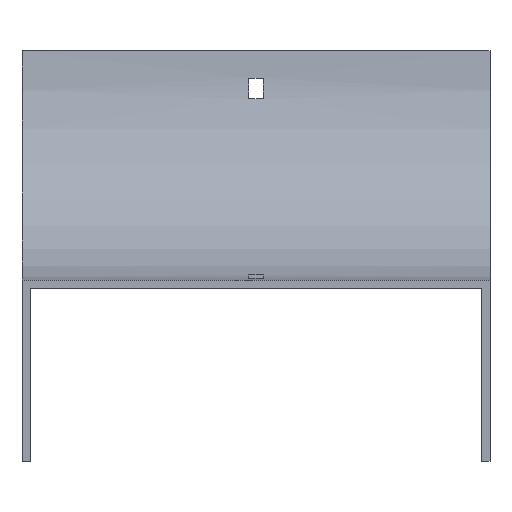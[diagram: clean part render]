
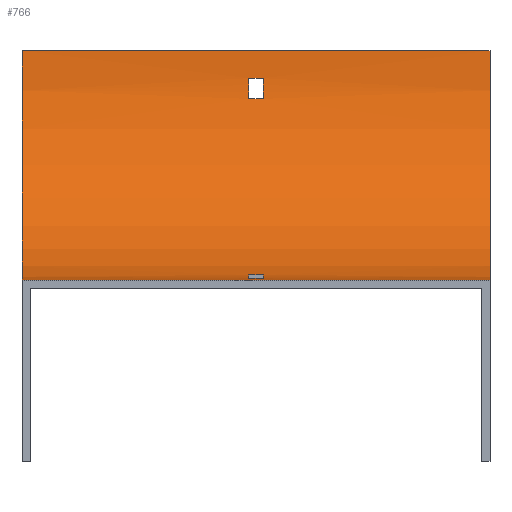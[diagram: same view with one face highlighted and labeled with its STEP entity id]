
A CAD part, front view. The second image highlights one B-rep face of the part: STEP entity #766.
In plain terms, the highlighted cylindrical face has radius 100 mm (diameter 200 mm), a partial arc.
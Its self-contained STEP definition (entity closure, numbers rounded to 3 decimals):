
#5 = VECTOR ( 'NONE', #104, 1000. ) ;
#7 = EDGE_CURVE ( 'NONE', #1125, #1558, #1030, .T. ) ;
#8 = DIRECTION ( 'NONE',  ( 0., 0., -1. ) ) ;
#70 = ORIENTED_EDGE ( 'NONE', *, *, #133, .F. ) ;
#72 = CARTESIAN_POINT ( 'NONE',  ( 3.25, -2.23, -21. ) ) ;
#104 = DIRECTION ( 'NONE',  ( -1., 0., 0. ) ) ;
#105 = ORIENTED_EDGE ( 'NONE', *, *, #432, .T. ) ;
#115 = ORIENTED_EDGE ( 'NONE', *, *, #1183, .F. ) ;
#116 = ORIENTED_EDGE ( 'NONE', *, *, #530, .F. ) ;
#119 = VERTEX_POINT ( 'NONE', #789 ) ;
#126 = LINE ( 'NONE', #1693, #155 ) ;
#133 = EDGE_CURVE ( 'NONE', #446, #1214, #1242, .T. ) ;
#137 = EDGE_LOOP ( 'NONE', ( #1365, #116, #1236, #1182 ) ) ;
#155 = VECTOR ( 'NONE', #1560, 1000. ) ;
#185 = ORIENTED_EDGE ( 'NONE', *, *, #1277, .F. ) ;
#198 = DIRECTION ( 'NONE',  ( 0., 0., 1. ) ) ;
#212 = CARTESIAN_POINT ( 'NONE',  ( -102., -100., -100. ) ) ;
#220 = CARTESIAN_POINT ( 'NONE',  ( -3.25, -0.723, -12. ) ) ;
#244 = DIRECTION ( 'NONE',  ( 0., 0., 1. ) ) ;
#266 = VERTEX_POINT ( 'NONE', #220 ) ;
#268 = LINE ( 'NONE', #1158, #712 ) ;
#272 = DIRECTION ( 'NONE',  ( -1., 0., 0. ) ) ;
#324 = VERTEX_POINT ( 'NONE', #212 ) ;
#327 = AXIS2_PLACEMENT_3D ( 'NONE', #982, #1227, #198 ) ;
#330 = AXIS2_PLACEMENT_3D ( 'NONE', #1349, #1496, #1631 ) ;
#343 = DIRECTION ( 'NONE',  ( -1., 0., 0. ) ) ;
#364 = VERTEX_POINT ( 'NONE', #978 ) ;
#371 = CARTESIAN_POINT ( 'NONE',  ( -3.25, -100., 0. ) ) ;
#387 = CARTESIAN_POINT ( 'NONE',  ( 102., 0., 0. ) ) ;
#390 = CARTESIAN_POINT ( 'NONE',  ( 102., -79., -97.77 ) ) ;
#393 = CARTESIAN_POINT ( 'NONE',  ( 102., -2.23, -21. ) ) ;
#417 = CARTESIAN_POINT ( 'NONE',  ( 102., -100., 0. ) ) ;
#432 = EDGE_CURVE ( 'NONE', #1396, #1417, #535, .T. ) ;
#446 = VERTEX_POINT ( 'NONE', #654 ) ;
#497 = AXIS2_PLACEMENT_3D ( 'NONE', #1642, #1234, #1509 ) ;
#512 = AXIS2_PLACEMENT_3D ( 'NONE', #674, #1490, #1460 ) ;
#514 = ORIENTED_EDGE ( 'NONE', *, *, #810, .T. ) ;
#524 = DIRECTION ( 'NONE',  ( 1., 0., 0. ) ) ;
#530 = EDGE_CURVE ( 'NONE', #1558, #324, #126, .T. ) ;
#535 = LINE ( 'NONE', #393, #1073 ) ;
#562 = VERTEX_POINT ( 'NONE', #1072 ) ;
#631 = CIRCLE ( 'NONE', #497, 100. ) ;
#654 = CARTESIAN_POINT ( 'NONE',  ( 3.25, -88., -99.277 ) ) ;
#657 = AXIS2_PLACEMENT_3D ( 'NONE', #371, #1530, #244 ) ;
#664 = ORIENTED_EDGE ( 'NONE', *, *, #1206, .T. ) ;
#674 = CARTESIAN_POINT ( 'NONE',  ( 3.25, -100., 0. ) ) ;
#688 = EDGE_CURVE ( 'NONE', #1125, #119, #1393, .T. ) ;
#707 = FACE_BOUND ( 'NONE', #1672, .T. ) ;
#712 = VECTOR ( 'NONE', #524, 1000. ) ;
#732 = ORIENTED_EDGE ( 'NONE', *, *, #833, .F. ) ;
#735 = CARTESIAN_POINT ( 'NONE',  ( 102., 0., 0. ) ) ;
#766 = ADVANCED_FACE ( 'NONE', ( #1482, #851, #707 ), #834, .F. ) ;
#782 = DIRECTION ( 'NONE',  ( 0., 0., 1. ) ) ;
#789 = CARTESIAN_POINT ( 'NONE',  ( -102., 0., 0. ) ) ;
#795 = VECTOR ( 'NONE', #1045, 1000. ) ;
#806 = VERTEX_POINT ( 'NONE', #1280 ) ;
#810 = EDGE_CURVE ( 'NONE', #1417, #266, #1116, .T. ) ;
#833 = EDGE_CURVE ( 'NONE', #1214, #562, #1272, .T. ) ;
#834 = CYLINDRICAL_SURFACE ( 'NONE', #327, 100. ) ;
#851 = FACE_BOUND ( 'NONE', #1350, .T. ) ;
#898 = CARTESIAN_POINT ( 'NONE',  ( 102., -0.723, -12. ) ) ;
#907 = LINE ( 'NONE', #898, #795 ) ;
#978 = CARTESIAN_POINT ( 'NONE',  ( 3.25, -0.723, -12. ) ) ;
#982 = CARTESIAN_POINT ( 'NONE',  ( 102., -100., 0. ) ) ;
#1015 = VECTOR ( 'NONE', #343, 1000. ) ;
#1022 = EDGE_CURVE ( 'NONE', #119, #324, #631, .T. ) ;
#1030 = CIRCLE ( 'NONE', #1626, 100. ) ;
#1040 = DIRECTION ( 'NONE',  ( -1., 0., 0. ) ) ;
#1045 = DIRECTION ( 'NONE',  ( 1., 0., 0. ) ) ;
#1072 = CARTESIAN_POINT ( 'NONE',  ( -3.25, -79., -97.77 ) ) ;
#1073 = VECTOR ( 'NONE', #272, 1000. ) ;
#1116 = CIRCLE ( 'NONE', #657, 100. ) ;
#1125 = VERTEX_POINT ( 'NONE', #387 ) ;
#1137 = CARTESIAN_POINT ( 'NONE',  ( -3.25, -2.23, -21. ) ) ;
#1142 = ORIENTED_EDGE ( 'NONE', *, *, #1307, .T. ) ;
#1158 = CARTESIAN_POINT ( 'NONE',  ( 102., -88., -99.277 ) ) ;
#1182 = ORIENTED_EDGE ( 'NONE', *, *, #688, .T. ) ;
#1183 = EDGE_CURVE ( 'NONE', #806, #446, #268, .T. ) ;
#1206 = EDGE_CURVE ( 'NONE', #266, #364, #907, .T. ) ;
#1214 = VERTEX_POINT ( 'NONE', #1428 ) ;
#1227 = DIRECTION ( 'NONE',  ( -1., 0., 0. ) ) ;
#1234 = DIRECTION ( 'NONE',  ( -1., 0., 0. ) ) ;
#1236 = ORIENTED_EDGE ( 'NONE', *, *, #7, .F. ) ;
#1242 = CIRCLE ( 'NONE', #512, 100. ) ;
#1272 = LINE ( 'NONE', #390, #5 ) ;
#1277 = EDGE_CURVE ( 'NONE', #562, #806, #1362, .T. ) ;
#1280 = CARTESIAN_POINT ( 'NONE',  ( -3.25, -88., -99.277 ) ) ;
#1307 = EDGE_CURVE ( 'NONE', #364, #1396, #1557, .T. ) ;
#1349 = CARTESIAN_POINT ( 'NONE',  ( -3.25, -100., 0. ) ) ;
#1350 = EDGE_LOOP ( 'NONE', ( #105, #514, #664, #1142 ) ) ;
#1362 = CIRCLE ( 'NONE', #330, 100. ) ;
#1365 = ORIENTED_EDGE ( 'NONE', *, *, #1022, .T. ) ;
#1390 = AXIS2_PLACEMENT_3D ( 'NONE', #1487, #1609, #8 ) ;
#1393 = LINE ( 'NONE', #735, #1015 ) ;
#1396 = VERTEX_POINT ( 'NONE', #72 ) ;
#1417 = VERTEX_POINT ( 'NONE', #1137 ) ;
#1428 = CARTESIAN_POINT ( 'NONE',  ( 3.25, -79., -97.77 ) ) ;
#1460 = DIRECTION ( 'NONE',  ( 0., -1., 0. ) ) ;
#1482 = FACE_OUTER_BOUND ( 'NONE', #137, .T. ) ;
#1487 = CARTESIAN_POINT ( 'NONE',  ( 3.25, -100., 0. ) ) ;
#1490 = DIRECTION ( 'NONE',  ( 1., 0., 0. ) ) ;
#1496 = DIRECTION ( 'NONE',  ( -1., 0., 0. ) ) ;
#1509 = DIRECTION ( 'NONE',  ( 0., 0., 1. ) ) ;
#1530 = DIRECTION ( 'NONE',  ( 1., 0., 0. ) ) ;
#1557 = CIRCLE ( 'NONE', #1390, 100. ) ;
#1558 = VERTEX_POINT ( 'NONE', #1684 ) ;
#1560 = DIRECTION ( 'NONE',  ( -1., 0., 0. ) ) ;
#1609 = DIRECTION ( 'NONE',  ( -1., 0., 0. ) ) ;
#1626 = AXIS2_PLACEMENT_3D ( 'NONE', #417, #1040, #782 ) ;
#1631 = DIRECTION ( 'NONE',  ( 0., 1., 0. ) ) ;
#1642 = CARTESIAN_POINT ( 'NONE',  ( -102., -100., 0. ) ) ;
#1672 = EDGE_LOOP ( 'NONE', ( #185, #732, #70, #115 ) ) ;
#1684 = CARTESIAN_POINT ( 'NONE',  ( 102., -100., -100. ) ) ;
#1693 = CARTESIAN_POINT ( 'NONE',  ( 102., -100., -100. ) ) ;
